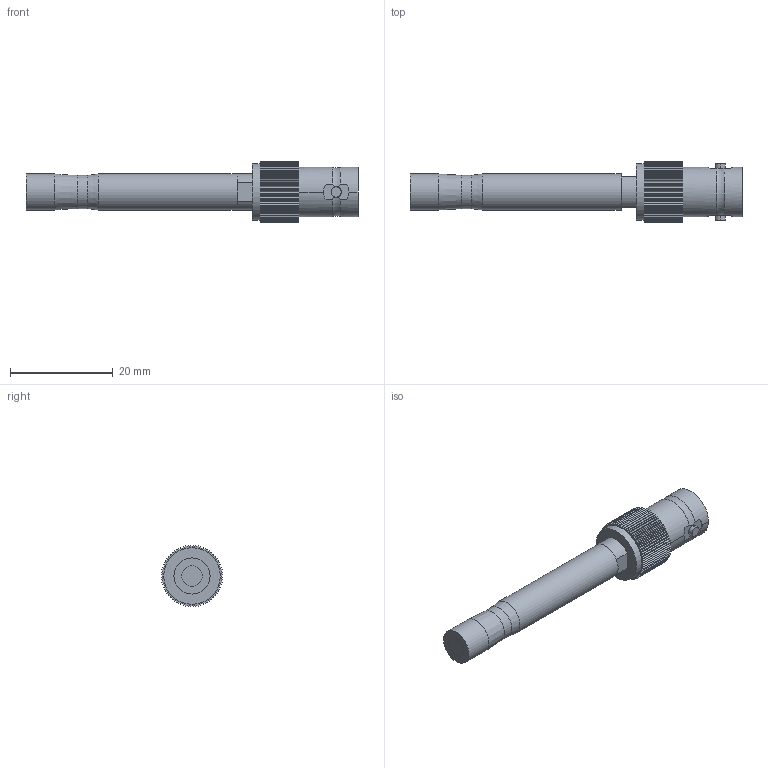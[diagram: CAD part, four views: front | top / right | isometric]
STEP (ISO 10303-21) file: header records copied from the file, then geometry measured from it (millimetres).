
FILE_DESCRIPTION(/* description */ ('Microphone MI15'),/* implementation_level */ '2;1');
FILE_NAME(/* name */ 'K:\Projekte\+Projekte\+ROGA-Instruments\2230027 Mikrofone\Mikrofon MI15\3D-Doku\Mikrofon MI15.stp',/* time_stamp */ '2022-01-29T11:46:24+01:00',/* author */ ('Ralf.Viertelmeister'),/* organization */ (''),/* preprocessor_version */ 'ST-DEVELOPER v18.1',/* originating_system */ 'Autodesk Inventor 2021',/* authorisation */ '');
FILE_SCHEMA (('AUTOMOTIVE_DESIGN { 1 0 10303 214 3 1 1 }'));
Length unit declared in the file: millimetre
Products named in the file (5): Mikrofon MI15; 1-1478204-0; Rändel; Hülse-MI15; Kopf
Assembly tree (4 placements, depth 2):
  Mikrofon MI15
    1-1478204-0
    Rändel
    Hülse-MI15
    Kopf
Bounding box: 64.5 x 11.99 x 11.99 mm (x, y, z)
Volume: 1645.3 mm3; surface area: 3480 mm2
Topology: 5 solids, 5 shells, 316 faces, 899 edges, 601 vertices
Faces by surface type: plane 198, cylinder 108, cone 8, torus 2
Full cylindrical faces by diameter (mm): 4 x2, 5 x3, 6.5 x1, 7 x2, 9.65 x1, 11 x1
Entity records: 10723 total; most frequent: CARTESIAN_POINT 2041, ORIENTED_EDGE 1798, DIRECTION 1782, EDGE_CURVE 899, LINE 610, VECTOR 610, VERTEX_POINT 601, AXIS2_PLACEMENT_3D 586
